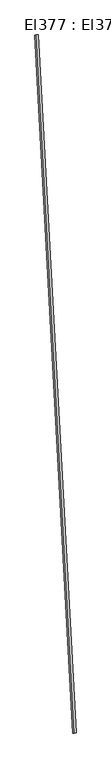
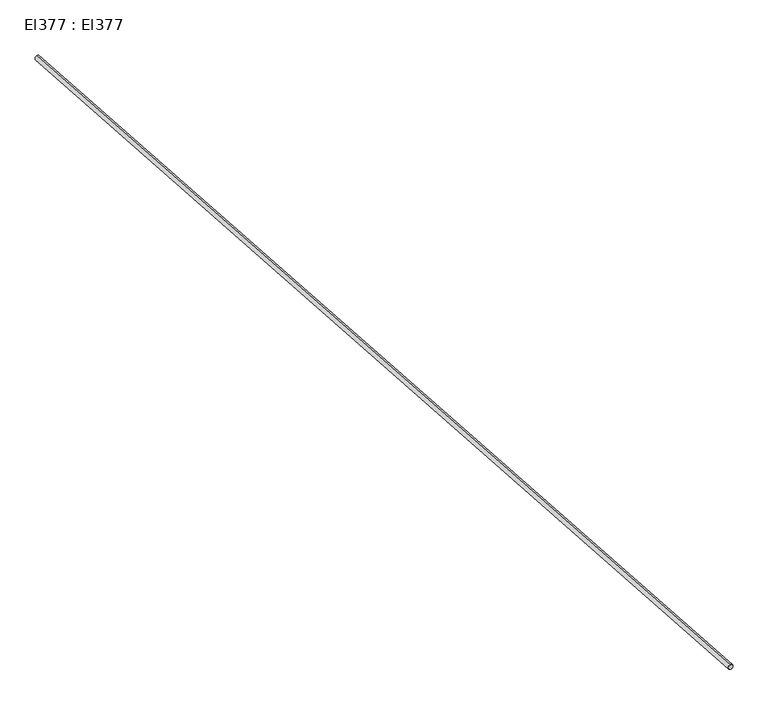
"""IFC4 building model written with IfcOpenShell, lengths in millimetres: cable carrier segment geometry, El377 : El377."""

from ifc_helpers import new_model, si_unit, point, frame, frame_2d, origin, place, context, project, spatial, circle_curve, trimmed, segment, composite_curve, outline, extrude, source, transform, mapped, element, save


def el377_el377_4a842648(model_context):
    return source(origin(), model_context, "Body", "SweptSolid", [
        extrude(outline(composite_curve([segment(trimmed(circle_curve(frame_2d((0.0, -9.5)), 9.5), [point((0.0, -19.0))], [point((0.0, 0.0))], False, "CARTESIAN"), True, "CONTINUOUS"), segment(trimmed(circle_curve(frame_2d((0.0, -9.5)), 9.5), [point((0.0, 0.0))], [point((0.0, -19.0))], False, "CARTESIAN"), True, "CONTINUOUS")], self_intersect=False)), frame((820.4741797, 28131.3300485, 9.5), z_axis=(-0.05438280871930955, 0.998520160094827, 0.0), x_axis=(-0.998520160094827, -0.05438280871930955, 0.0)), (0.0, 0.0, 1.0), 4284.28),
    ])


if __name__ == "__main__":
    model = new_model("IFC4")
    model_context = context("Model", 3, world=origin())
    ifc_project = project(units=[si_unit("LENGTHUNIT", "METRE", prefix="MILLI")], contexts=[model_context])
    site = spatial("IfcSite", under=ifc_project)
    building = spatial("IfcBuilding", under=site)
    placement = place(None, origin())
    el377_el377_shape = el377_el377_4a842648(model_context)
    element("IfcCableCarrierSegment", 1, ObjectType="El377 : El377", at=placement, inside=building, context=model_context, shape_type="MappedRepresentation", body=[
        mapped(el377_el377_shape, transform((0.0, 0.0, 0.0), x_axis=(1.0, 0.0, 0.0), y_axis=(0.0, 1.0, 0.0), z_axis=(0.0, 0.0, 1.0))),
    ])
    save(model, "model.ifc")
